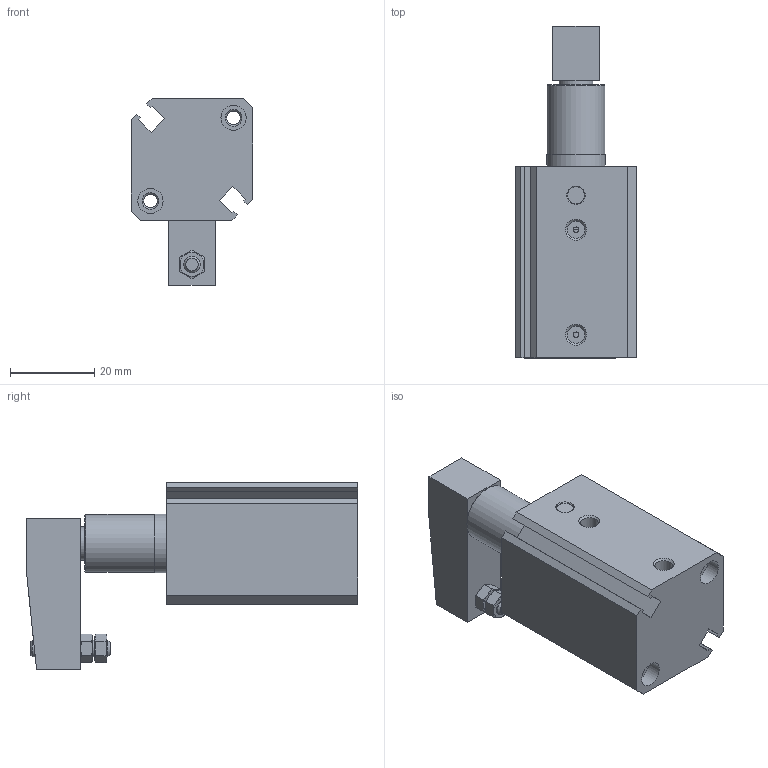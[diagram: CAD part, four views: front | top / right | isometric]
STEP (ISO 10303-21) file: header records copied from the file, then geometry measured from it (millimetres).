
FILE_DESCRIPTION(/* description */ ('STEP AP203'),/* implementation_level */ '2;1');
FILE_NAME(/* name */ 'QCKL16x10SG(07)',/* time_stamp */ '2024-09-09T08:55:57+02:00',/* author */ ('License CC BY-ND 4.0'),/* organization */ ('CADENAS'),/* preprocessor_version */ 'ST-DEVELOPER v19.3',/* originating_system */ 'PARTsolutions',/* authorisation */ ' ');
FILE_SCHEMA (('CONFIG_CONTROL_DESIGN'));
Length unit declared in the file: millimetre
Products named in the file (4): QCKL16x10SG(07); QCKL16x10SG_07d; QCKL16x10-S0_b; QCKL16x10-S(07)_r
Assembly tree (3 placements, depth 2):
  QCKL16x10SG(07)
    QCKL16x10SG_07d
    QCKL16x10-S0_b
    QCKL16x10-S(07)_r
Bounding box: 29 x 79 x 44.5 mm (x, y, z)
Volume: 38530.3 mm3; surface area: 17049.3 mm2
Topology: 2 solids, 2 shells, 118 faces, 249 edges, 161 vertices
Faces by surface type: plane 72, cylinder 28, cone 18
Full cylindrical faces by diameter (mm): 1.3 x2, 3.242 x4, 3.4 x2, 4 x4, 4.134 x2, 6 x4, 8 x2, 8.5 x1, 9 x1, 13.8 x1, 14 x1, 16 x2, 18 x1, 19.1 x1
Entity records: 3052 total; most frequent: CARTESIAN_POINT 578, DIRECTION 492, ORIENTED_EDGE 402, EDGE_CURVE 201, EDGE_LOOP 197, FACE_BOUND 197, AXIS2_PLACEMENT_3D 195, VERTEX_POINT 158
